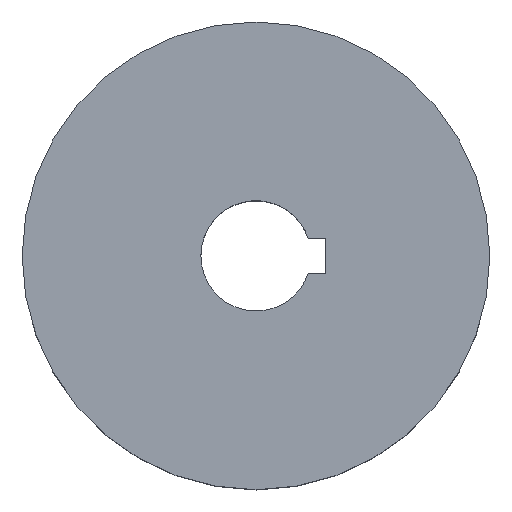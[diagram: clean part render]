
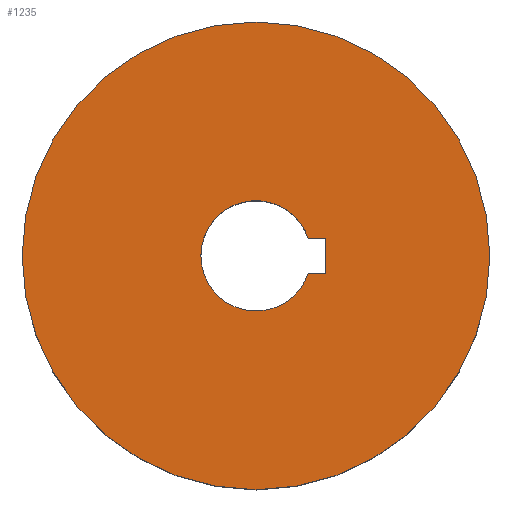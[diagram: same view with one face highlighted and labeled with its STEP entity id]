
A CAD part, top view. The second image highlights one B-rep face of the part: STEP entity #1235.
In plain terms, the highlighted planar face has unit normal (0, 0, 1).
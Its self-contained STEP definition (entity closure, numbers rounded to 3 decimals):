
#732 = EDGE_LOOP ( 'NONE', ( #4085, #4086, #4087, #4088, #4089 ) ) ;
#740 = EDGE_LOOP ( 'NONE', ( #4083, #4084 ) ) ;
#1235 = ADVANCED_FACE ( 'NONE', ( #5857, #5861 ), #10106, .T. ) ;
#1461 = AXIS2_PLACEMENT_3D ( 'NONE', #1535, #1536, #1537 ) ;
#1463 = AXIS2_PLACEMENT_3D ( 'NONE', #1545, #1546, #1547 ) ;
#1535 = CARTESIAN_POINT ( 'NONE',  ( 0., 0., 18.5 ) ) ;
#1536 = DIRECTION ( 'NONE',  ( 0., 0., -1. ) ) ;
#1537 = DIRECTION ( 'NONE',  ( -1., 0., 0. ) ) ;
#1545 = CARTESIAN_POINT ( 'NONE',  ( 0., 0., 18.5 ) ) ;
#1546 = DIRECTION ( 'NONE',  ( 0., 0., -1. ) ) ;
#1547 = DIRECTION ( 'NONE',  ( -1., 0., 0. ) ) ;
#1996 = CARTESIAN_POINT ( 'NONE',  ( 0., 0., 18.5 ) ) ;
#1997 = DIRECTION ( 'NONE',  ( 0., 0., -1. ) ) ;
#1998 = DIRECTION ( 'NONE',  ( -1., 0., 0. ) ) ;
#3421 = VERTEX_POINT ( 'NONE', #8958 ) ;
#3424 = VERTEX_POINT ( 'NONE', #8960 ) ;
#3426 = VERTEX_POINT ( 'NONE', #8961 ) ;
#3428 = VERTEX_POINT ( 'NONE', #8962 ) ;
#3454 = VERTEX_POINT ( 'NONE', #8976 ) ;
#3467 = VERTEX_POINT ( 'NONE', #7087 ) ;
#3475 = VERTEX_POINT ( 'NONE', #7091 ) ;
#4083 = ORIENTED_EDGE ( 'NONE', *, *, #7521, .F. ) ;
#4084 = ORIENTED_EDGE ( 'NONE', *, *, #6650, .F. ) ;
#4085 = ORIENTED_EDGE ( 'NONE', *, *, #6651, .F. ) ;
#4086 = ORIENTED_EDGE ( 'NONE', *, *, #6652, .T. ) ;
#4087 = ORIENTED_EDGE ( 'NONE', *, *, #9245, .T. ) ;
#4088 = ORIENTED_EDGE ( 'NONE', *, *, #9241, .T. ) ;
#4089 = ORIENTED_EDGE ( 'NONE', *, *, #6653, .T. ) ;
#4627 = CIRCLE ( 'NONE', #1463, 12.5 ) ;
#5857 = FACE_OUTER_BOUND ( 'NONE', #740, .T. ) ;
#5861 = FACE_BOUND ( 'NONE', #732, .T. ) ;
#6650 = EDGE_CURVE ( 'NONE', #3475, #3467, #8419, .T. ) ;
#6651 = EDGE_CURVE ( 'NONE', #3424, #3428, #8417, .T. ) ;
#6652 = EDGE_CURVE ( 'NONE', #3424, #3454, #8422, .T. ) ;
#6653 = EDGE_CURVE ( 'NONE', #3426, #3428, #8421, .T. ) ;
#6837 = AXIS2_PLACEMENT_3D ( 'NONE', #10100, #10108, #10109 ) ;
#7087 = CARTESIAN_POINT ( 'NONE',  ( -53., 0., 18.5 ) ) ;
#7091 = CARTESIAN_POINT ( 'NONE',  ( 53., 0., 18.5 ) ) ;
#7521 = EDGE_CURVE ( 'NONE', #3467, #3475, #8056, .T. ) ;
#8056 = CIRCLE ( 'NONE', #9128, 53. ) ;
#8224 = CIRCLE ( 'NONE', #1461, 12.5 ) ;
#8417 = LINE ( 'NONE', #9655, #8423 ) ;
#8419 = CIRCLE ( 'NONE', #9098, 53. ) ;
#8421 = LINE ( 'NONE', #9654, #8427 ) ;
#8422 = LINE ( 'NONE', #9659, #8425 ) ;
#8423 = VECTOR ( 'NONE', #9652, 1000. ) ;
#8425 = VECTOR ( 'NONE', #9661, 1000. ) ;
#8427 = VECTOR ( 'NONE', #9662, 1000. ) ;
#8958 = CARTESIAN_POINT ( 'NONE',  ( -12.5, 0., 18.5 ) ) ;
#8960 = CARTESIAN_POINT ( 'NONE',  ( 15.8, -4., 18.5 ) ) ;
#8961 = CARTESIAN_POINT ( 'NONE',  ( 11.843, 4., 18.5 ) ) ;
#8962 = CARTESIAN_POINT ( 'NONE',  ( 15.8, 4., 18.5 ) ) ;
#8976 = CARTESIAN_POINT ( 'NONE',  ( 11.843, -4., 18.5 ) ) ;
#9098 = AXIS2_PLACEMENT_3D ( 'NONE', #9656, #9657, #9658 ) ;
#9128 = AXIS2_PLACEMENT_3D ( 'NONE', #1996, #1997, #1998 ) ;
#9241 = EDGE_CURVE ( 'NONE', #3421, #3426, #8224, .T. ) ;
#9245 = EDGE_CURVE ( 'NONE', #3454, #3421, #4627, .T. ) ;
#9652 = DIRECTION ( 'NONE',  ( 0., 1., 0. ) ) ;
#9654 = CARTESIAN_POINT ( 'NONE',  ( 11.843, 4., 18.5 ) ) ;
#9655 = CARTESIAN_POINT ( 'NONE',  ( 15.8, -4., 18.5 ) ) ;
#9656 = CARTESIAN_POINT ( 'NONE',  ( 0., 0., 18.5 ) ) ;
#9657 = DIRECTION ( 'NONE',  ( 0., 0., -1. ) ) ;
#9658 = DIRECTION ( 'NONE',  ( -1., 0., 0. ) ) ;
#9659 = CARTESIAN_POINT ( 'NONE',  ( 15.8, -4., 18.5 ) ) ;
#9661 = DIRECTION ( 'NONE',  ( -1., 0., 0. ) ) ;
#9662 = DIRECTION ( 'NONE',  ( 1., 0., 0. ) ) ;
#10100 = CARTESIAN_POINT ( 'NONE',  ( 0., 0., 18.5 ) ) ;
#10106 = PLANE ( 'NONE',  #6837 ) ;
#10108 = DIRECTION ( 'NONE',  ( 0., 0., 1. ) ) ;
#10109 = DIRECTION ( 'NONE',  ( -1., 0., 0. ) ) ;
